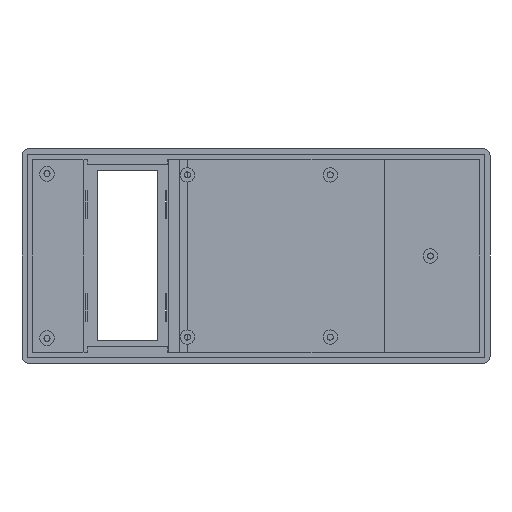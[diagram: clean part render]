
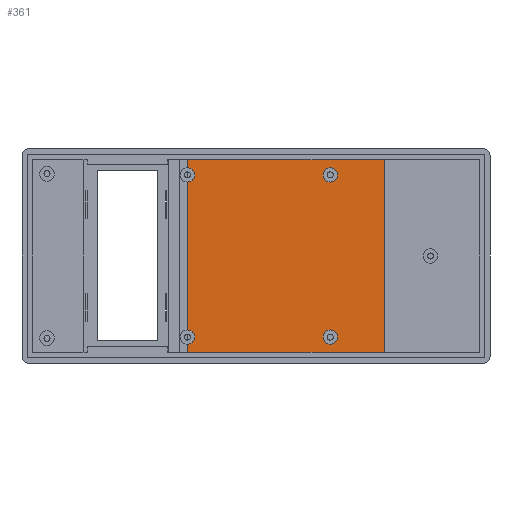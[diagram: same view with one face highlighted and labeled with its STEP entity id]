
A CAD part, front view. The second image highlights one B-rep face of the part: STEP entity #361.
In plain terms, the highlighted planar face has unit normal (0, -1, 0).
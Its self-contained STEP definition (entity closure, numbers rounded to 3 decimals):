
#19 = VERTEX_POINT ( 'NONE', #3171 ) ;
#99 = LINE ( 'NONE', #3085, #2934 ) ;
#206 = ORIENTED_EDGE ( 'NONE', *, *, #5036, .F. ) ;
#207 = ORIENTED_EDGE ( 'NONE', *, *, #1203, .F. ) ;
#228 = FACE_BOUND ( 'NONE', #2826, .T. ) ;
#281 = CARTESIAN_POINT ( 'NONE',  ( 64., 4.15, 28.5 ) ) ;
#305 = DIRECTION ( 'NONE',  ( 0., -1., 0. ) ) ;
#334 = AXIS2_PLACEMENT_3D ( 'NONE', #2573, #305, #2974 ) ;
#339 = VECTOR ( 'NONE', #4634, 1000. ) ;
#361 = ADVANCED_FACE ( 'Cara12', ( #2926, #228, #3486 ), #2322, .T. ) ;
#432 = VERTEX_POINT ( 'NONE', #773 ) ;
#661 = CIRCLE ( 'NONE', #334, 2. ) ;
#773 = CARTESIAN_POINT ( 'NONE',  ( 20.8, 4.15, -24.7 ) ) ;
#866 = CARTESIAN_POINT ( 'NONE',  ( 20.8, 4.15, 22.7 ) ) ;
#871 = CARTESIAN_POINT ( 'NONE',  ( 36., 4.15, 28.5 ) ) ;
#931 = CARTESIAN_POINT ( 'NONE',  ( 36., 4.15, 28.5 ) ) ;
#1008 = AXIS2_PLACEMENT_3D ( 'NONE', #4141, #4125, #4073 ) ;
#1043 = AXIS2_PLACEMENT_3D ( 'NONE', #4698, #4681, #4551 ) ;
#1122 = CARTESIAN_POINT ( 'NONE',  ( -19.2, 4.15, 28.5 ) ) ;
#1203 = EDGE_CURVE ( 'NONE', #432, #2100, #3649, .T. ) ;
#1243 = DIRECTION ( 'NONE',  ( 0., 0., -1. ) ) ;
#1256 = EDGE_CURVE ( 'NONE', #1596, #3080, #3331, .T. ) ;
#1308 = ORIENTED_EDGE ( 'NONE', *, *, #3116, .F. ) ;
#1343 = DIRECTION ( 'NONE',  ( 0., 0., -1. ) ) ;
#1346 = LINE ( 'NONE', #1122, #339 ) ;
#1361 = DIRECTION ( 'NONE',  ( 0., -1., 0. ) ) ;
#1577 = LINE ( 'NONE', #3427, #3517 ) ;
#1596 = VERTEX_POINT ( 'NONE', #2797 ) ;
#1660 = CARTESIAN_POINT ( 'NONE',  ( 20.8, 4.15, 22.7 ) ) ;
#1666 = AXIS2_PLACEMENT_3D ( 'NONE', #2307, #2043, #2096 ) ;
#1781 = DIRECTION ( 'NONE',  ( -1., 0., 0. ) ) ;
#1798 = ORIENTED_EDGE ( 'NONE', *, *, #2544, .F. ) ;
#2008 = EDGE_LOOP ( 'NONE', ( #206, #207 ) ) ;
#2043 = DIRECTION ( 'NONE',  ( 0., -1., 0. ) ) ;
#2067 = CIRCLE ( 'NONE', #4970, 2. ) ;
#2072 = CIRCLE ( 'NONE', #3096, 2. ) ;
#2096 = DIRECTION ( 'NONE',  ( 0., 0., -1. ) ) ;
#2100 = VERTEX_POINT ( 'NONE', #3127 ) ;
#2105 = DIRECTION ( 'NONE',  ( 0., 0., -1. ) ) ;
#2307 = CARTESIAN_POINT ( 'NONE',  ( 0., 4.15, 0. ) ) ;
#2322 = PLANE ( 'NONE',  #1666 ) ;
#2418 = DIRECTION ( 'NONE',  ( 0., -1., 0. ) ) ;
#2476 = CARTESIAN_POINT ( 'NONE',  ( -19.2, 4.15, 22.7 ) ) ;
#2488 = CARTESIAN_POINT ( 'NONE',  ( -19.2, 4.15, 28.5 ) ) ;
#2544 = EDGE_CURVE ( 'NONE', #19, #3199, #4179, .T. ) ;
#2557 = EDGE_CURVE ( 'Arista39', #4690, #4967, #2067, .T. ) ;
#2573 = CARTESIAN_POINT ( 'NONE',  ( 20.8, 4.15, -22.7 ) ) ;
#2767 = ORIENTED_EDGE ( 'NONE', *, *, #4504, .F. ) ;
#2771 = ORIENTED_EDGE ( 'NONE', *, *, #4086, .F. ) ;
#2774 = DIRECTION ( 'NONE',  ( 0., 0., -1. ) ) ;
#2797 = CARTESIAN_POINT ( 'NONE',  ( -19.2, 4.15, -24.7 ) ) ;
#2826 = EDGE_LOOP ( 'NONE', ( #3252, #4677 ) ) ;
#2836 = EDGE_LOOP ( 'NONE', ( #2771, #3827, #2767, #4899, #3414, #4689, #1308, #1798 ) ) ;
#2872 = DIRECTION ( 'NONE',  ( 0., 0., 1. ) ) ;
#2873 = LINE ( 'NONE', #871, #3805 ) ;
#2893 = CARTESIAN_POINT ( 'NONE',  ( 20.8, 4.15, 20.7 ) ) ;
#2901 = VERTEX_POINT ( 'NONE', #4805 ) ;
#2926 = FACE_OUTER_BOUND ( 'NONE', #2836, .T. ) ;
#2934 = VECTOR ( 'NONE', #2872, 1000. ) ;
#2974 = DIRECTION ( 'NONE',  ( 0., 0., -1. ) ) ;
#3058 = CARTESIAN_POINT ( 'NONE',  ( 20.8, 4.15, 24.7 ) ) ;
#3080 = VERTEX_POINT ( 'NONE', #3272 ) ;
#3085 = CARTESIAN_POINT ( 'NONE',  ( -19.2, 4.15, 28.5 ) ) ;
#3096 = AXIS2_PLACEMENT_3D ( 'NONE', #866, #3558, #1243 ) ;
#3116 = EDGE_CURVE ( 'NONE', #3199, #4581, #99, .T. ) ;
#3127 = CARTESIAN_POINT ( 'NONE',  ( 20.8, 4.15, -20.7 ) ) ;
#3145 = CARTESIAN_POINT ( 'NONE',  ( -19.2, 4.15, 24.7 ) ) ;
#3171 = CARTESIAN_POINT ( 'NONE',  ( -19.2, 4.15, 20.7 ) ) ;
#3199 = VERTEX_POINT ( 'NONE', #3145 ) ;
#3252 = ORIENTED_EDGE ( 'NONE', *, *, #2557, .F. ) ;
#3262 = DIRECTION ( 'NONE',  ( 0., 0., 1. ) ) ;
#3272 = CARTESIAN_POINT ( 'NONE',  ( -19.2, 4.15, -20.7 ) ) ;
#3331 = CIRCLE ( 'NONE', #1008, 2. ) ;
#3332 = CARTESIAN_POINT ( 'NONE',  ( -19.2, 4.15, 28.5 ) ) ;
#3403 = VECTOR ( 'NONE', #1781, 1000. ) ;
#3410 = EDGE_CURVE ( 'Arista39', #4967, #4690, #2072, .T. ) ;
#3414 = ORIENTED_EDGE ( 'NONE', *, *, #4776, .F. ) ;
#3427 = CARTESIAN_POINT ( 'NONE',  ( -24.6, 4.15, -28.5 ) ) ;
#3452 = VERTEX_POINT ( 'NONE', #931 ) ;
#3486 = FACE_BOUND ( 'NONE', #2008, .T. ) ;
#3517 = VECTOR ( 'NONE', #3843, 1000. ) ;
#3558 = DIRECTION ( 'NONE',  ( 0., -1., 0. ) ) ;
#3649 = CIRCLE ( 'NONE', #1043, 2. ) ;
#3790 = VECTOR ( 'NONE', #3262, 1000. ) ;
#3805 = VECTOR ( 'NONE', #2774, 1000. ) ;
#3827 = ORIENTED_EDGE ( 'NONE', *, *, #1256, .F. ) ;
#3843 = DIRECTION ( 'NONE',  ( 1., 0., 0. ) ) ;
#4049 = EDGE_CURVE ( 'Arista1', #4262, #2901, #1577, .T. ) ;
#4073 = DIRECTION ( 'NONE',  ( 0., 0., -1. ) ) ;
#4086 = EDGE_CURVE ( 'Arista27', #3080, #19, #1346, .T. ) ;
#4125 = DIRECTION ( 'NONE',  ( 0., -1., 0. ) ) ;
#4141 = CARTESIAN_POINT ( 'NONE',  ( -19.2, 4.15, -22.7 ) ) ;
#4179 = CIRCLE ( 'NONE', #5033, 2. ) ;
#4262 = VERTEX_POINT ( 'NONE', #4279 ) ;
#4279 = CARTESIAN_POINT ( 'NONE',  ( -19.2, 4.15, -28.5 ) ) ;
#4478 = LINE ( 'NONE', #281, #3403 ) ;
#4504 = EDGE_CURVE ( 'NONE', #4262, #1596, #4844, .T. ) ;
#4551 = DIRECTION ( 'NONE',  ( 0., 0., -1. ) ) ;
#4581 = VERTEX_POINT ( 'NONE', #3332 ) ;
#4585 = EDGE_CURVE ( 'NONE', #3452, #4581, #4478, .T. ) ;
#4634 = DIRECTION ( 'NONE',  ( 0., 0., 1. ) ) ;
#4677 = ORIENTED_EDGE ( 'NONE', *, *, #3410, .F. ) ;
#4681 = DIRECTION ( 'NONE',  ( 0., -1., 0. ) ) ;
#4689 = ORIENTED_EDGE ( 'NONE', *, *, #4585, .T. ) ;
#4690 = VERTEX_POINT ( 'NONE', #3058 ) ;
#4698 = CARTESIAN_POINT ( 'NONE',  ( 20.8, 4.15, -22.7 ) ) ;
#4776 = EDGE_CURVE ( 'Arista14', #3452, #2901, #2873, .T. ) ;
#4805 = CARTESIAN_POINT ( 'NONE',  ( 36., 4.15, -28.5 ) ) ;
#4844 = LINE ( 'NONE', #2488, #3790 ) ;
#4899 = ORIENTED_EDGE ( 'NONE', *, *, #4049, .T. ) ;
#4967 = VERTEX_POINT ( 'NONE', #2893 ) ;
#4970 = AXIS2_PLACEMENT_3D ( 'NONE', #1660, #1361, #1343 ) ;
#5033 = AXIS2_PLACEMENT_3D ( 'NONE', #2476, #2418, #2105 ) ;
#5036 = EDGE_CURVE ( 'NONE', #2100, #432, #661, .T. ) ;
